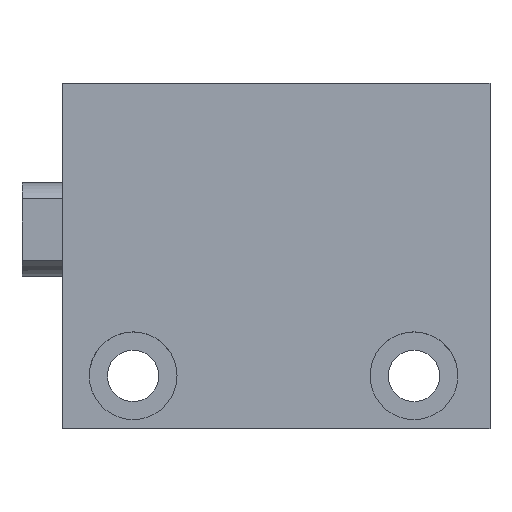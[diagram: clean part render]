
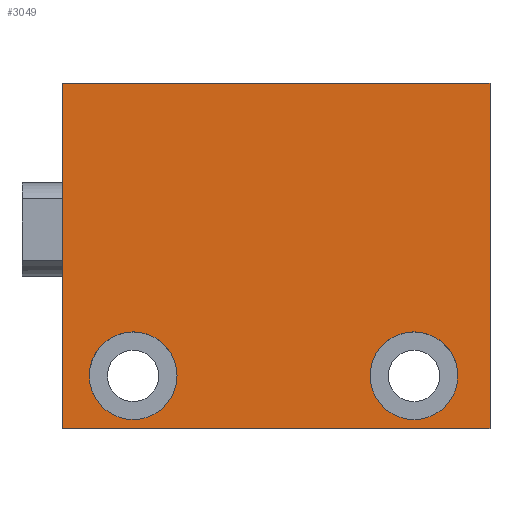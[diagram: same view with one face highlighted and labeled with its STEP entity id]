
A CAD part, top view. The second image highlights one B-rep face of the part: STEP entity #3049.
In plain terms, the highlighted planar face has unit normal (0, 0, 1).
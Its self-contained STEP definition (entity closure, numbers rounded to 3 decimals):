
#31 = DIRECTION ( 'NONE',  ( 0., 1., 0. ) ) ;
#45 = VERTEX_POINT ( 'NONE', #852 ) ;
#65 = VERTEX_POINT ( 'NONE', #1935 ) ;
#74 = VERTEX_POINT ( 'NONE', #983 ) ;
#88 = AXIS2_PLACEMENT_3D ( 'NONE', #1645, #1943, #2355 ) ;
#164 = EDGE_LOOP ( 'NONE', ( #437, #478, #585, #2886 ) ) ;
#182 = EDGE_LOOP ( 'NONE', ( #1661, #2978 ) ) ;
#188 = ORIENTED_EDGE ( 'NONE', *, *, #197, .F. ) ;
#197 = EDGE_CURVE ( 'NONE', #2977, #74, #1611, .T. ) ;
#209 = CARTESIAN_POINT ( 'NONE',  ( 30., -12.5, 10.5 ) ) ;
#214 = LINE ( 'NONE', #2147, #2809 ) ;
#267 = CARTESIAN_POINT ( 'NONE',  ( 2.25, -12.5, 10.5 ) ) ;
#270 = EDGE_CURVE ( 'NONE', #45, #65, #766, .T. ) ;
#285 = VECTOR ( 'NONE', #1787, 1000. ) ;
#367 = CARTESIAN_POINT ( 'NONE',  ( 9.75, -12.5, 10.5 ) ) ;
#437 = ORIENTED_EDGE ( 'NONE', *, *, #1987, .F. ) ;
#478 = ORIENTED_EDGE ( 'NONE', *, *, #2893, .F. ) ;
#493 = EDGE_CURVE ( 'NONE', #74, #2977, #2120, .T. ) ;
#568 = DIRECTION ( 'NONE',  ( 1., 0., 0. ) ) ;
#585 = ORIENTED_EDGE ( 'NONE', *, *, #270, .T. ) ;
#616 = DIRECTION ( 'NONE',  ( 0., 0., 1. ) ) ;
#638 = VERTEX_POINT ( 'NONE', #267 ) ;
#669 = EDGE_CURVE ( 'NONE', #65, #1041, #2278, .T. ) ;
#700 = CARTESIAN_POINT ( 'NONE',  ( 26.25, -12.5, 10.5 ) ) ;
#707 = AXIS2_PLACEMENT_3D ( 'NONE', #2235, #2452, #31 ) ;
#766 = LINE ( 'NONE', #2197, #1458 ) ;
#842 = EDGE_CURVE ( 'NONE', #638, #914, #2464, .T. ) ;
#852 = CARTESIAN_POINT ( 'NONE',  ( 36.5, -17., 10.5 ) ) ;
#914 = VERTEX_POINT ( 'NONE', #367 ) ;
#944 = DIRECTION ( 'NONE',  ( 0., 0., 1. ) ) ;
#983 = CARTESIAN_POINT ( 'NONE',  ( 33.75, -12.5, 10.5 ) ) ;
#1041 = VERTEX_POINT ( 'NONE', #2071 ) ;
#1070 = CARTESIAN_POINT ( 'NONE',  ( 0., -17., 10.5 ) ) ;
#1118 = AXIS2_PLACEMENT_3D ( 'NONE', #1766, #2523, #2704 ) ;
#1193 = FACE_OUTER_BOUND ( 'NONE', #164, .T. ) ;
#1458 = VECTOR ( 'NONE', #2457, 1000. ) ;
#1611 = CIRCLE ( 'NONE', #2796, 3.75 ) ;
#1645 = CARTESIAN_POINT ( 'NONE',  ( 30., -12.5, 10.5 ) ) ;
#1661 = ORIENTED_EDGE ( 'NONE', *, *, #2303, .F. ) ;
#1766 = CARTESIAN_POINT ( 'NONE',  ( 6., -12.5, 10.5 ) ) ;
#1784 = ORIENTED_EDGE ( 'NONE', *, *, #493, .F. ) ;
#1787 = DIRECTION ( 'NONE',  ( -1., 0., 0. ) ) ;
#1888 = LINE ( 'NONE', #3095, #2507 ) ;
#1930 = CIRCLE ( 'NONE', #2321, 3.75 ) ;
#1935 = CARTESIAN_POINT ( 'NONE',  ( 36.5, 12.5, 10.5 ) ) ;
#1943 = DIRECTION ( 'NONE',  ( 0., 0., 1. ) ) ;
#1987 = EDGE_CURVE ( 'NONE', #2331, #1041, #214, .T. ) ;
#2071 = CARTESIAN_POINT ( 'NONE',  ( 0., 12.5, 10.5 ) ) ;
#2120 = CIRCLE ( 'NONE', #88, 3.75 ) ;
#2147 = CARTESIAN_POINT ( 'NONE',  ( 0., -17., 10.5 ) ) ;
#2149 = FACE_BOUND ( 'NONE', #3021, .T. ) ;
#2175 = DIRECTION ( 'NONE',  ( -1., 0., 0. ) ) ;
#2193 = FACE_BOUND ( 'NONE', #182, .T. ) ;
#2197 = CARTESIAN_POINT ( 'NONE',  ( 36.5, -17., 10.5 ) ) ;
#2235 = CARTESIAN_POINT ( 'NONE',  ( 36.5, -17., 10.5 ) ) ;
#2278 = LINE ( 'NONE', #2991, #285 ) ;
#2289 = CARTESIAN_POINT ( 'NONE',  ( 6., -12.5, 10.5 ) ) ;
#2303 = EDGE_CURVE ( 'NONE', #914, #638, #1930, .T. ) ;
#2321 = AXIS2_PLACEMENT_3D ( 'NONE', #2289, #616, #568 ) ;
#2331 = VERTEX_POINT ( 'NONE', #1070 ) ;
#2355 = DIRECTION ( 'NONE',  ( 1., 0., 0. ) ) ;
#2396 = DIRECTION ( 'NONE',  ( 0., 1., 0. ) ) ;
#2452 = DIRECTION ( 'NONE',  ( 0., 0., 1. ) ) ;
#2457 = DIRECTION ( 'NONE',  ( 0., 1., 0. ) ) ;
#2464 = CIRCLE ( 'NONE', #1118, 3.75 ) ;
#2507 = VECTOR ( 'NONE', #2175, 1000. ) ;
#2523 = DIRECTION ( 'NONE',  ( 0., 0., 1. ) ) ;
#2686 = PLANE ( 'NONE',  #707 ) ;
#2704 = DIRECTION ( 'NONE',  ( 1., 0., 0. ) ) ;
#2796 = AXIS2_PLACEMENT_3D ( 'NONE', #209, #944, #3093 ) ;
#2809 = VECTOR ( 'NONE', #2396, 1000. ) ;
#2886 = ORIENTED_EDGE ( 'NONE', *, *, #669, .T. ) ;
#2893 = EDGE_CURVE ( 'NONE', #45, #2331, #1888, .T. ) ;
#2977 = VERTEX_POINT ( 'NONE', #700 ) ;
#2978 = ORIENTED_EDGE ( 'NONE', *, *, #842, .F. ) ;
#2991 = CARTESIAN_POINT ( 'NONE',  ( 36.5, 12.5, 10.5 ) ) ;
#3021 = EDGE_LOOP ( 'NONE', ( #1784, #188 ) ) ;
#3049 = ADVANCED_FACE ( 'NONE', ( #1193, #2149, #2193 ), #2686, .T. ) ;
#3093 = DIRECTION ( 'NONE',  ( 1., 0., 0. ) ) ;
#3095 = CARTESIAN_POINT ( 'NONE',  ( 36.5, -17., 10.5 ) ) ;
